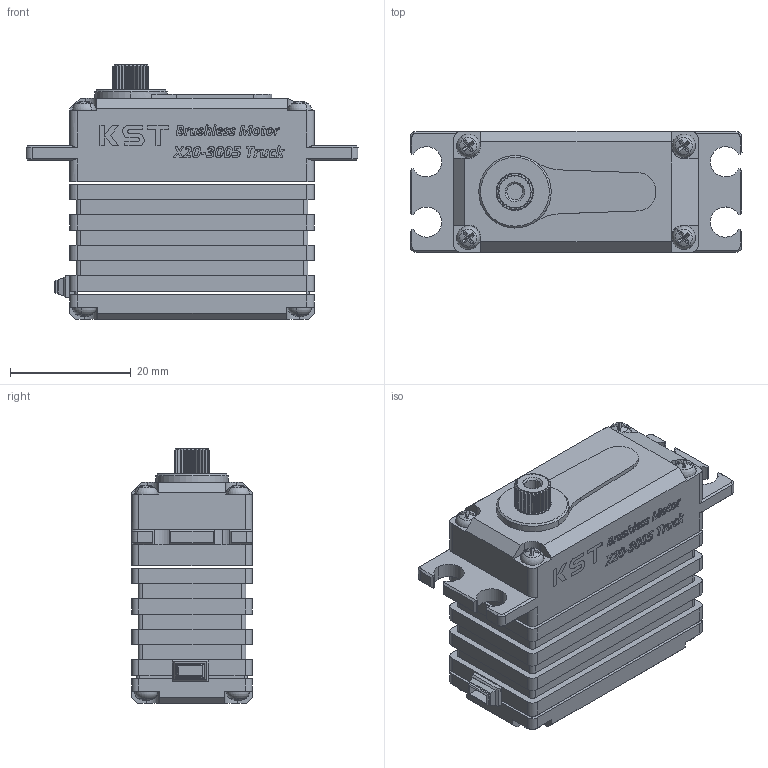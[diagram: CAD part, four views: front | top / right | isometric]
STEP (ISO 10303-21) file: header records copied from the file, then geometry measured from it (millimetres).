
FILE_DESCRIPTION (( 'STEP AP214' ), '1' );
FILE_NAME ('X20-3005 Truck_DM.STEP', '2022-06-13T07:58:45', ( '微软用户' ), ( '微软中国' ), 'SwSTEP 2.0', 'SolidWorks 2016', '' );
FILE_SCHEMA (( 'AUTOMOTIVE_DESIGN' ));
Length unit declared in the file: millimetre
Products named in the file (1): X20-3005 Truck_DM
Bounding box: 55 x 20 x 42.2 mm (x, y, z)
Surface area: 8000.3 mm2 (no closed solid volume)
Topology: 0 solids, 32 shells, 759 faces, 3384 edges, 2602 vertices
Faces by surface type: plane 462, cylinder 140, bspline 87, cone 38, sphere 16, torus 16
Entity records: 56593 total; most frequent: CARTESIAN_POINT 23706, ORIENTED_EDGE 5040, DIRECTION 4032, EDGE_CURVE 3384, VERTEX_POINT 2602, VECTOR 1588, LINE 1588, B_SPLINE_CURVE_WITH_KNOTS 1237
